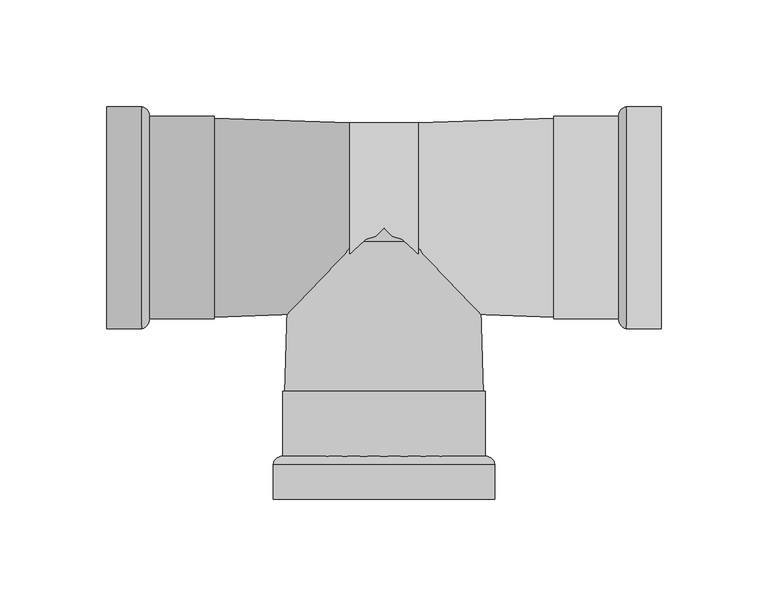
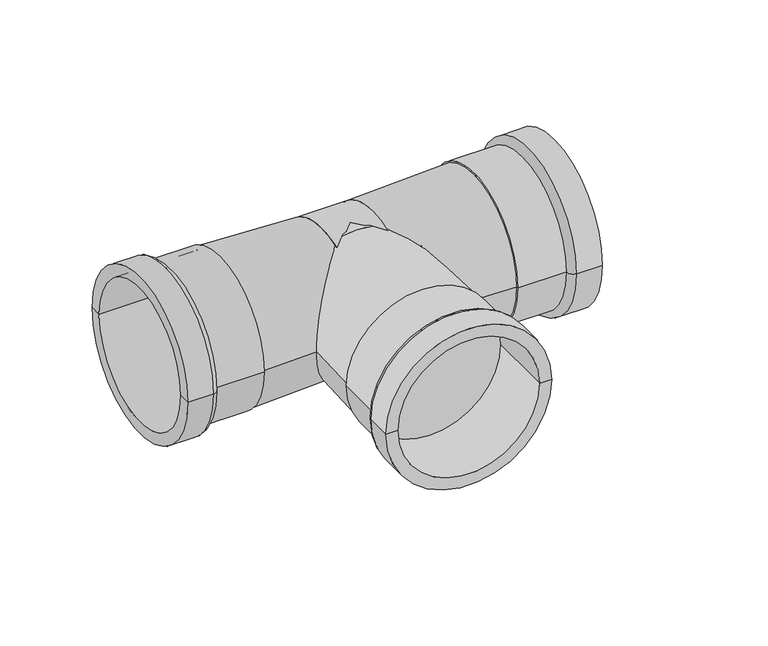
"""IFC4 building model written with IfcOpenShell, lengths in millimetres: pipe fitting geometry, VALTEC_VTi.931.I_Тройник_Ннержавеющая сталь : VTi.931.I."""

from ifc_helpers import new_model, si_unit, point, frame, origin, origin_2d, place, context, project, spatial, polyline, circle_curve, ellipse_curve, trimmed, segment, composite_curve, outline, extrude, source, transform, mapped, element, save
from ifc_brep_helpers import plane_surface, cylinder_surface, revolved_surface, advanced_brep


def pipe_fitting_680f5426(model_context):
    return source(origin(), model_context, "Body", "SolidModel", [
        advanced_brep(
        [(-44.45, -132.0, 0.0), (-52.0, -132.0, 0.0), (52.0, -132.0, 0.0), (44.45, -132.0, 0.0), (-44.45, -81.5, 0.0), (44.45, -81.5, 0.0), (-47.5, -81.5, 0.0), (47.5, -81.5, 0.0), (-47.5, -111.89, 0.0), (47.5, -111.89, 0.0), (-52.0, -115.6, 0.0), (52.0, -115.6, 0.0)],
        [
            (0, 1),
            (1, 2, circle_curve(frame((0.0, -132.0, 0.0), z_axis=(0.0, -1.0, 0.0), x_axis=(1.0, 0.0, 0.0)), 52.0)),
            (2, 3),
            (3, 0, circle_curve(frame((0.0, -132.0, 0.0), z_axis=(0.0, 1.0, 0.0), x_axis=(1.0, 0.0, 0.0)), 44.45)),
            (2, 1, circle_curve(frame((0.0, -132.0, 0.0), z_axis=(0.0, -1.0, 0.0), x_axis=(1.0, 0.0, 0.0)), 52.0)),
            (0, 3, circle_curve(frame((0.0, -132.0, 0.0), z_axis=(0.0, 1.0, 0.0), x_axis=(1.0, 0.0, 0.0)), 44.45)),
            (4, 0),
            (3, 5),
            (5, 4, circle_curve(frame((0.0, -81.5, 0.0), z_axis=(0.0, 1.0, 0.0), x_axis=(1.0, 0.0, 0.0)), 44.45)),
            (4, 5, circle_curve(frame((0.0, -81.5, 0.0), z_axis=(0.0, 1.0, 0.0), x_axis=(1.0, 0.0, 0.0)), 44.45)),
            (6, 4),
            (5, 7),
            (7, 6, circle_curve(frame((0.0, -81.5, 0.0), z_axis=(0.0, 1.0, 0.0), x_axis=(1.0, 0.0, 0.0)), 47.5)),
            (6, 7, circle_curve(frame((0.0, -81.5, 0.0), z_axis=(0.0, 1.0, 0.0), x_axis=(1.0, 0.0, 0.0)), 47.5)),
            (8, 6),
            (7, 9),
            (9, 8, circle_curve(frame((0.0, -111.89, 0.0), z_axis=(0.0, 1.0, 0.0), x_axis=(1.0, 0.0, 0.0)), 47.5)),
            (8, 9, circle_curve(frame((0.0, -111.89, 0.0), z_axis=(0.0, 1.0, 0.0), x_axis=(1.0, 0.0, 0.0)), 47.5)),
            (10, 8, circle_curve(frame((-47.612345, -116.337843, 0.0), z_axis=(0.0, 0.0, -1.0), x_axis=(0.0, 1.0, 0.0)), 4.4492616)),
            (9, 11, circle_curve(frame((47.612345, -116.337843, 0.0), z_axis=(0.0, 0.0, -1.0), x_axis=(0.0, 1.0, 0.0)), 4.4492616)),
            (11, 10, circle_curve(frame((0.0, -115.6, 0.0), z_axis=(0.0, 1.0, 0.0), x_axis=(1.0, 0.0, 0.0)), 52.0)),
            (10, 11, circle_curve(frame((0.0, -115.6, 0.0), z_axis=(0.0, 1.0, 0.0), x_axis=(1.0, 0.0, 0.0)), 52.0)),
            (1, 10),
            (11, 2),
        ],
        [
            plane_surface(frame((0.0, -132.0, 0.0), z_axis=(0.0, -1.0, 0.0), x_axis=(1.0, 0.0, 0.0))),
            revolved_surface(polyline([(44.45, -132.0, 0.0), (44.45, -81.5, 0.0)]), (0.0, -102.2906392, 0.0), (0.0, -1.0, 0.0)),
            plane_surface(frame((0.0, -81.5, 0.0), z_axis=(0.0, 1.0, 0.0), x_axis=(1.0, 0.0, 0.0))),
            cylinder_surface(frame((0.0, -102.2906392, 0.0), z_axis=(0.0, -1.0, 0.0), x_axis=(1.0, 0.0, 0.0)), 47.5),
            revolved_surface(trimmed(ellipse_curve(frame((47.612345, -116.337843, 0.0), z_axis=(0.0, 0.0, -1.0), x_axis=(0.0, 1.0, 0.0)), 4.4492616, 4.4492616), [point((47.5, -111.89, 0.0))], [point((52.0, -115.6, 0.0))], True, "CARTESIAN"), (0.0, -102.2906392, 0.0), (0.0, -1.0, 0.0)),
            cylinder_surface(frame((0.0, -102.2906392, 0.0), z_axis=(0.0, -1.0, 0.0), x_axis=(1.0, 0.0, 0.0)), 52.0),
        ],
        [
            (0, [[1, 2, 3, 4]]),
            (0, [[-3, 5, -1, 6]]),
            (1, [[7, -4, 8, 9]]),
            (1, [[-8, -6, -7, 10]]),
            (2, [[11, -9, 12, 13]]),
            (2, [[-12, -10, -11, 14]]),
            (3, [[15, -13, 16, 17]]),
            (3, [[-16, -14, -15, 18]]),
            (4, [[19, -17, 20, 21]]),
            (4, [[-20, -18, -19, 22]]),
            (5, [[23, -21, 24, -2]]),
            (5, [[-24, -22, -23, -5]]),
        ],
    ),
        advanced_brep(
        [(130.0, -44.45, 0.0), (130.0, -52.0, 0.0), (130.0, 52.0, 0.0), (130.0, 44.45, 0.0), (79.5, -44.45, 0.0), (79.5, 44.45, 0.0), (79.5, -47.5, 0.0), (79.5, 47.5, 0.0), (109.89, -47.5, 0.0), (109.89, 47.5, 0.0), (113.6, -52.0, 0.0), (113.6, 52.0, 0.0)],
        [
            (0, 1),
            (1, 2, circle_curve(frame((130.0, 0.0, 0.0), z_axis=(1.0, 0.0, 0.0), x_axis=(0.0, 1.0, 0.0)), 52.0)),
            (2, 3),
            (3, 0, circle_curve(frame((130.0, 0.0, 0.0), z_axis=(-1.0, 0.0, 0.0), x_axis=(0.0, 1.0, 0.0)), 44.45)),
            (2, 1, circle_curve(frame((130.0, 0.0, 0.0), z_axis=(1.0, 0.0, 0.0), x_axis=(0.0, 1.0, 0.0)), 52.0)),
            (0, 3, circle_curve(frame((130.0, 0.0, 0.0), z_axis=(-1.0, 0.0, 0.0), x_axis=(0.0, 1.0, 0.0)), 44.45)),
            (4, 0),
            (3, 5),
            (5, 4, circle_curve(frame((79.5, 0.0, 0.0), z_axis=(-1.0, 0.0, 0.0), x_axis=(0.0, 1.0, 0.0)), 44.45)),
            (4, 5, circle_curve(frame((79.5, 0.0, 0.0), z_axis=(-1.0, 0.0, 0.0), x_axis=(0.0, 1.0, 0.0)), 44.45)),
            (6, 4),
            (5, 7),
            (7, 6, circle_curve(frame((79.5, 0.0, 0.0), z_axis=(-1.0, 0.0, 0.0), x_axis=(0.0, 1.0, 0.0)), 47.5)),
            (6, 7, circle_curve(frame((79.5, 0.0, 0.0), z_axis=(-1.0, 0.0, 0.0), x_axis=(0.0, 1.0, 0.0)), 47.5)),
            (8, 6),
            (7, 9),
            (9, 8, circle_curve(frame((109.89, 0.0, 0.0), z_axis=(-1.0, 0.0, 0.0), x_axis=(0.0, 1.0, 0.0)), 47.5)),
            (8, 9, circle_curve(frame((109.89, 0.0, 0.0), z_axis=(-1.0, 0.0, 0.0), x_axis=(0.0, 1.0, 0.0)), 47.5)),
            (10, 8, circle_curve(frame((114.337843, -47.612345, 0.0), z_axis=(0.0, 0.0, -1.0), x_axis=(-1.0, 0.0, 0.0)), 4.4492616)),
            (9, 11, circle_curve(frame((114.337843, 47.612345, 0.0), z_axis=(0.0, 0.0, -1.0), x_axis=(-1.0, 0.0, 0.0)), 4.4492616)),
            (11, 10, circle_curve(frame((113.6, 0.0, 0.0), z_axis=(-1.0, 0.0, 0.0), x_axis=(0.0, 1.0, 0.0)), 52.0)),
            (10, 11, circle_curve(frame((113.6, 0.0, 0.0), z_axis=(-1.0, 0.0, 0.0), x_axis=(0.0, 1.0, 0.0)), 52.0)),
            (1, 10),
            (11, 2),
        ],
        [
            plane_surface(frame((130.0, 0.0, 0.0), z_axis=(1.0, 0.0, 0.0), x_axis=(0.0, 1.0, 0.0))),
            revolved_surface(polyline([(130.0, 44.45, 0.0), (79.5, 44.45, 0.0)]), (100.2906392, 0.0, 0.0), (1.0, 0.0, 0.0)),
            plane_surface(frame((79.5, 0.0, 0.0), z_axis=(-1.0, 0.0, 0.0), x_axis=(0.0, 1.0, 0.0))),
            cylinder_surface(frame((100.2906392, 0.0, 0.0), z_axis=(1.0, 0.0, 0.0), x_axis=(0.0, 1.0, 0.0)), 47.5),
            revolved_surface(trimmed(ellipse_curve(frame((114.337843, 47.612345, 0.0), z_axis=(0.0, 0.0, -1.0), x_axis=(-1.0, 0.0, 0.0)), 4.4492616, 4.4492616), [point((109.89, 47.5, 0.0))], [point((113.6, 52.0, 0.0))], True, "CARTESIAN"), (100.2906392, 0.0, 0.0), (1.0, 0.0, 0.0)),
            cylinder_surface(frame((100.2906392, 0.0, 0.0), z_axis=(1.0, 0.0, 0.0), x_axis=(0.0, 1.0, 0.0)), 52.0),
        ],
        [
            (0, [[1, 2, 3, 4]]),
            (0, [[-3, 5, -1, 6]]),
            (1, [[7, -4, 8, 9]]),
            (1, [[-8, -6, -7, 10]]),
            (2, [[11, -9, 12, 13]]),
            (2, [[-12, -10, -11, 14]]),
            (3, [[15, -13, 16, 17]]),
            (3, [[-16, -14, -15, 18]]),
            (4, [[19, -17, 20, 21]]),
            (4, [[-20, -18, -19, 22]]),
            (5, [[23, -21, 24, -2]]),
            (5, [[-24, -22, -23, -5]]),
        ],
    ),
        advanced_brep(
        [(-130.0, -44.45, 0.0), (-130.0, 44.45, 0.0), (-130.0, 52.0, 0.0), (-130.0, -52.0, 0.0), (-79.5, -44.45, 0.0), (-79.5, 44.45, 0.0), (-79.5, -47.5, 0.0), (-79.5, 47.5, 0.0), (-109.89, -47.5, 0.0), (-109.89, 47.5, 0.0), (-113.6, -52.0, 0.0), (-113.6, 52.0, 0.0)],
        [
            (0, 1, circle_curve(frame((-130.0, 0.0, 0.0), z_axis=(1.0, 0.0, 0.0), x_axis=(0.0, 1.0, 0.0)), 44.45)),
            (1, 2),
            (2, 3, circle_curve(frame((-130.0, 0.0, 0.0), z_axis=(-1.0, 0.0, 0.0), x_axis=(0.0, 1.0, 0.0)), 52.0)),
            (3, 0),
            (1, 0, circle_curve(frame((-130.0, 0.0, 0.0), z_axis=(1.0, 0.0, 0.0), x_axis=(0.0, 1.0, 0.0)), 44.45)),
            (3, 2, circle_curve(frame((-130.0, 0.0, 0.0), z_axis=(-1.0, 0.0, 0.0), x_axis=(0.0, 1.0, 0.0)), 52.0)),
            (4, 5, circle_curve(frame((-79.5, 0.0, 0.0), z_axis=(1.0, 0.0, 0.0), x_axis=(0.0, 1.0, 0.0)), 44.45)),
            (5, 1),
            (0, 4),
            (5, 4, circle_curve(frame((-79.5, 0.0, 0.0), z_axis=(1.0, 0.0, 0.0), x_axis=(0.0, 1.0, 0.0)), 44.45)),
            (6, 7, circle_curve(frame((-79.5, 0.0, 0.0), z_axis=(1.0, 0.0, 0.0), x_axis=(0.0, 1.0, 0.0)), 47.5)),
            (7, 5),
            (4, 6),
            (7, 6, circle_curve(frame((-79.5, 0.0, 0.0), z_axis=(1.0, 0.0, 0.0), x_axis=(0.0, 1.0, 0.0)), 47.5)),
            (8, 9, circle_curve(frame((-109.89, 0.0, 0.0), z_axis=(1.0, 0.0, 0.0), x_axis=(0.0, 1.0, 0.0)), 47.5)),
            (9, 7),
            (6, 8),
            (9, 8, circle_curve(frame((-109.89, 0.0, 0.0), z_axis=(1.0, 0.0, 0.0), x_axis=(0.0, 1.0, 0.0)), 47.5)),
            (10, 11, circle_curve(frame((-113.6, 0.0, 0.0), z_axis=(1.0, 0.0, 0.0), x_axis=(0.0, 1.0, 0.0)), 52.0)),
            (11, 9, circle_curve(frame((-114.337843, 47.612345, 0.0), z_axis=(0.0, 0.0, -1.0), x_axis=(1.0, 0.0, 0.0)), 4.4492616)),
            (8, 10, circle_curve(frame((-114.337843, -47.612345, 0.0), z_axis=(0.0, 0.0, -1.0), x_axis=(1.0, 0.0, 0.0)), 4.4492616)),
            (11, 10, circle_curve(frame((-113.6, 0.0, 0.0), z_axis=(1.0, 0.0, 0.0), x_axis=(0.0, 1.0, 0.0)), 52.0)),
            (2, 11),
            (10, 3),
        ],
        [
            plane_surface(frame((-130.0, 0.0, 0.0), z_axis=(-1.0, 0.0, 0.0), x_axis=(0.0, 1.0, 0.0))),
            revolved_surface(polyline([(-130.0, 44.45, 0.0), (-79.5, 44.45, 0.0)]), (-100.2906392, 0.0, 0.0), (-1.0, 0.0, 0.0)),
            plane_surface(frame((-79.5, 0.0, 0.0), z_axis=(1.0, 0.0, 0.0), x_axis=(0.0, 1.0, 0.0))),
            cylinder_surface(frame((-100.2906392, 0.0, 0.0), z_axis=(-1.0, 0.0, 0.0), x_axis=(0.0, 1.0, 0.0)), 47.5),
            revolved_surface(trimmed(ellipse_curve(frame((-114.337843, 47.612345, 0.0), z_axis=(0.0, 0.0, 1.0), x_axis=(1.0, 0.0, 0.0)), 4.4492616, 4.4492616), [point((-109.89, 47.5, 0.0))], [point((-113.6, 52.0, 0.0))], True, "CARTESIAN"), (-100.2906392, 0.0, 0.0), (-1.0, 0.0, 0.0)),
            cylinder_surface(frame((-100.2906392, 0.0, 0.0), z_axis=(-1.0, 0.0, 0.0), x_axis=(0.0, 1.0, 0.0)), 52.0),
        ],
        [
            (0, [[1, 2, 3, 4]]),
            (0, [[5, -4, 6, -2]]),
            (1, [[7, 8, -1, 9]]),
            (1, [[10, -9, -5, -8]]),
            (2, [[11, 12, -7, 13]]),
            (2, [[14, -13, -10, -12]]),
            (3, [[15, 16, -11, 17]]),
            (3, [[18, -17, -14, -16]]),
            (4, [[19, 20, -15, 21]]),
            (4, [[22, -21, -18, -20]]),
            (5, [[-3, 23, -19, 24]]),
            (5, [[-6, -24, -22, -23]]),
        ],
    ),
        extrude(outline(composite_curve([segment(trimmed(circle_curve(origin_2d(), 44.45), [point((-44.45, 0.0))], [point((44.45, 0.0))], False, "CARTESIAN"), True, "CONTINUOUS"), segment(trimmed(circle_curve(origin_2d(), 44.45), [point((44.45, 0.0))], [point((-44.45, 0.0))], False, "CARTESIAN"), True, "CONTINUOUS")], self_intersect=False)), frame((-16.0, 0.0, 0.0), z_axis=(1.0, 0.0, 0.0), x_axis=(0.0, 1.0, 0.0)), (0.0, 0.0, 1.0), 32.0),
        advanced_brep(
        [(-46.6725, -90.0, 0.0), (46.6725, -90.0, 0.0), (-44.45, -11.3209826, 0.0), (44.45, -11.3209826, 0.0)],
        [
            (0, 1, circle_curve(frame((0.0, -90.0, 0.0), z_axis=(0.0, -1.0, 0.0), x_axis=(-1.0, 0.0, 0.0)), 46.6725)),
            (1, 0, circle_curve(frame((0.0, -90.0, 0.0), z_axis=(0.0, -1.0, 0.0), x_axis=(1.0, 0.0, 0.0)), 46.6725)),
            (2, 3, circle_curve(frame((0.0, -11.3209826, 0.0), z_axis=(0.0, 1.0, 0.0), x_axis=(1.0, 0.0, 0.0)), 44.45)),
            (3, 2, circle_curve(frame((0.0, -11.3209826, 0.0), z_axis=(0.0, 1.0, 0.0), x_axis=(-1.0, 0.0, 0.0)), 44.45)),
            (3, 1),
            (0, 2),
        ],
        [
            plane_surface(frame((0.0, -90.0, 0.0), z_axis=(0.0, -1.0, 0.0), x_axis=(0.0, 0.0, 1.0))),
            plane_surface(frame((0.0, -11.3209826, 0.0), z_axis=(0.0, 1.0, 0.0), x_axis=(0.0, 0.0, 1.0))),
            revolved_surface(polyline([(44.450000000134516, -11.32098259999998, 0.0), (46.6725, -90.0, 0.0)]), (0.0, 1562.2593655, 0.0), (0.0, -1.0, 0.0)),
            revolved_surface(polyline([(-44.450000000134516, -11.32098259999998, 0.0), (-46.6725, -90.0, 0.0)]), (0.0, 1562.2593655, 0.0), (0.0, -1.0, 0.0)),
        ],
        [
            (0, [[1, 2]]),
            (1, [[3, 4]]),
            (2, [[-4, 5, -1, 6]]),
            (3, [[-3, -6, -2, -5]]),
        ],
    ),
        extrude(outline(composite_curve([segment(trimmed(circle_curve(origin_2d(), 44.45), [point((0.0, -44.45))], [point((0.0, 44.45))], False, "CARTESIAN"), True, "CONTINUOUS"), segment(trimmed(circle_curve(origin_2d(), 44.45), [point((0.0, 44.45))], [point((0.0, -44.45))], False, "CARTESIAN"), True, "CONTINUOUS")], self_intersect=False)), frame((0.0, -11.3209826, 0.0), z_axis=(0.0, 1.0, 0.0), x_axis=(0.0, 0.0, 1.0)), (0.0, 0.0, 1.0), 11.3209826),
        advanced_brep(
        [(79.5, -46.6725, 0.0), (79.5, 46.6725, 0.0), (16.0, -44.45, 0.0), (16.0, 44.45, 0.0)],
        [
            (0, 1, circle_curve(frame((79.5, 0.0, 0.0), z_axis=(1.0, 0.0, 0.0), x_axis=(0.0, -1.0, 0.0)), 46.6725)),
            (1, 0, circle_curve(frame((79.5, 0.0, 0.0), z_axis=(1.0, 0.0, 0.0), x_axis=(0.0, 1.0, 0.0)), 46.6725)),
            (2, 3, circle_curve(frame((16.0, 0.0, 0.0), z_axis=(-1.0, 0.0, 0.0), x_axis=(0.0, 1.0, 0.0)), 44.45)),
            (3, 2, circle_curve(frame((16.0, 0.0, 0.0), z_axis=(-1.0, 0.0, 0.0), x_axis=(0.0, -1.0, 0.0)), 44.45)),
            (3, 1),
            (0, 2),
        ],
        [
            plane_surface(frame((79.5, 0.0, 0.0), z_axis=(1.0, 0.0, 0.0), x_axis=(0.0, 0.0, 1.0))),
            plane_surface(frame((16.0, 0.0, 0.0), z_axis=(-1.0, 0.0, 0.0), x_axis=(0.0, 0.0, 1.0))),
            revolved_surface(polyline([(16.0, 44.449999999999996, 0.0), (79.5, 46.6725, 0.0)]), (-1254.0, 0.0, 0.0), (1.0, 0.0, 0.0)),
            revolved_surface(polyline([(16.0, -44.449999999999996, 0.0), (79.5, -46.6725, 0.0)]), (-1254.0, 0.0, 0.0), (1.0, 0.0, 0.0)),
        ],
        [
            (0, [[1, 2]]),
            (1, [[3, 4]]),
            (2, [[-4, 5, -1, 6]]),
            (3, [[-3, -6, -2, -5]]),
        ],
    ),
        advanced_brep(
        [(-79.5, -46.6725, 0.0), (-79.5, 46.6725, 0.0), (-16.0, -44.45, 0.0), (-16.0, 44.45, 0.0)],
        [
            (0, 1, circle_curve(frame((-79.5, 0.0, 0.0), z_axis=(-1.0, 0.0, 0.0), x_axis=(0.0, -1.0, 0.0)), 46.6725)),
            (1, 0, circle_curve(frame((-79.5, 0.0, 0.0), z_axis=(-1.0, 0.0, 0.0), x_axis=(0.0, 1.0, 0.0)), 46.6725)),
            (2, 3, circle_curve(frame((-16.0, 0.0, 0.0), z_axis=(1.0, 0.0, 0.0), x_axis=(0.0, 1.0, 0.0)), 44.45)),
            (3, 2, circle_curve(frame((-16.0, 0.0, 0.0), z_axis=(1.0, 0.0, 0.0), x_axis=(0.0, -1.0, 0.0)), 44.45)),
            (2, 0),
            (1, 3),
        ],
        [
            plane_surface(frame((-79.5, 0.0, 0.0), z_axis=(-1.0, 0.0, 0.0), x_axis=(0.0, 0.0, -1.0))),
            plane_surface(frame((-16.0, 0.0, 0.0), z_axis=(1.0, 0.0, 0.0), x_axis=(0.0, 0.0, -1.0))),
            revolved_surface(polyline([(-16.0, -44.449999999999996, 0.0), (-79.5, -46.6725, 0.0)]), (1254.0, 0.0, 0.0), (-1.0, 0.0, 0.0)),
            revolved_surface(polyline([(-16.0, 44.449999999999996, 0.0), (-79.5, 46.6725, 0.0)]), (1254.0, 0.0, 0.0), (-1.0, 0.0, 0.0)),
        ],
        [
            (0, [[1, 2]]),
            (1, [[3, 4]]),
            (2, [[-3, 5, -2, 6]]),
            (3, [[-4, -6, -1, -5]]),
        ],
    ),
    ])


if __name__ == "__main__":
    model = new_model("IFC4")
    model_context = context("Model", 3, world=origin())
    ifc_project = project(units=[si_unit("LENGTHUNIT", "METRE", prefix="MILLI")], contexts=[model_context])
    site = spatial("IfcSite", under=ifc_project)
    building = spatial("IfcBuilding", under=site)
    placement = place(None, origin())
    pipe_fitting_shape = pipe_fitting_680f5426(model_context)
    element("IfcPipeFitting", 1, ObjectType="VALTEC_VTi.931.I_Тройник_Ннержавеющая сталь : VTi.931.I", at=placement, inside=building, context=model_context, shape_type="MappedRepresentation", body=[
        mapped(pipe_fitting_shape, transform((0.0, 0.0, 0.0), x_axis=(1.0, 0.0, 0.0), y_axis=(0.0, 1.0, 0.0), z_axis=(0.0, 0.0, 1.0))),
    ])
    save(model, "model.ifc")
